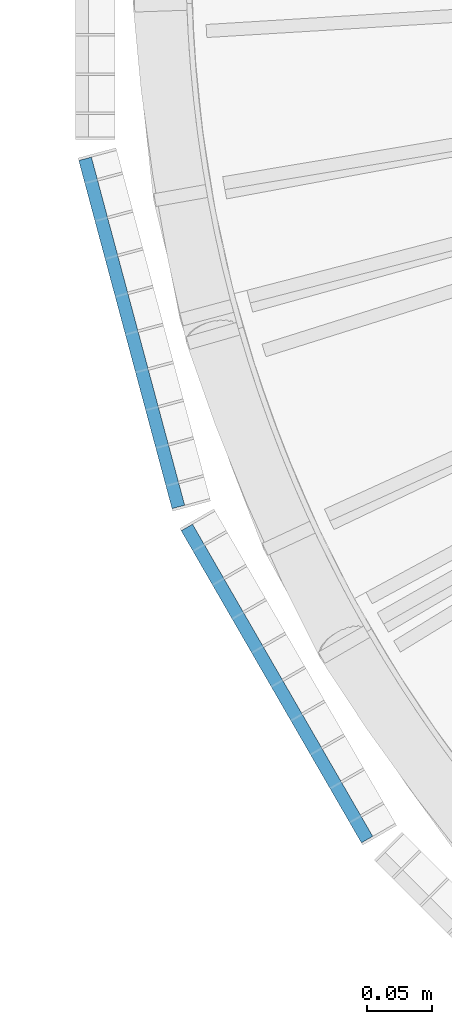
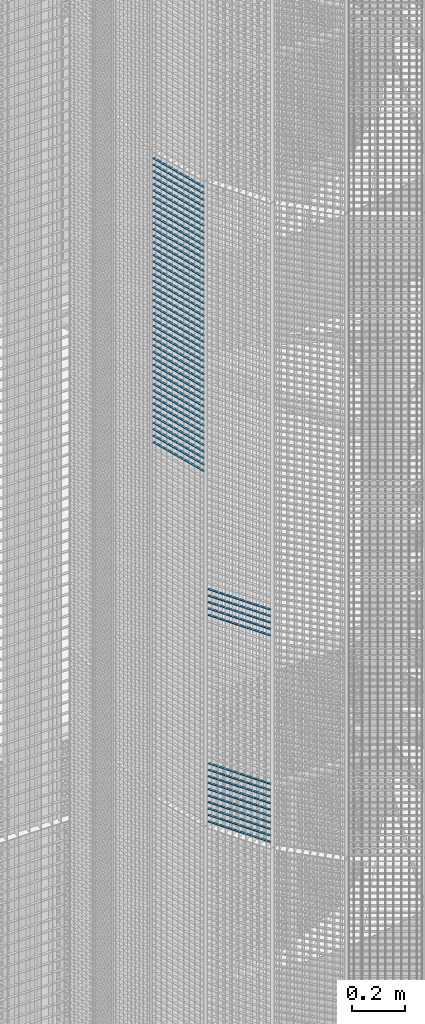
# One storey, part 111 of 1148: 60 beams, 2 elements without a shape of their own.
"""IFC2X3 building model written with IfcOpenShell, lengths in millimetres."""

from ifc_helpers import new_model, si_unit, frame, origin_with_axes, origin_2d_with_axis, place, context, subcontext, project, spatial, rectangle, extrude, material, type_object, element, aggregate, save


model = new_model("IFC2X3")

# Units and contexts
model_context = context("Model", 3, precision=1e-05, world=origin_with_axes())
body_context = subcontext(model_context, "Body", "Model", "MODEL_VIEW")
ifc_project = project(units=[si_unit("LENGTHUNIT", "METRE", prefix="MILLI"), si_unit("AREAUNIT", "SQUARE_METRE"), si_unit("VOLUMEUNIT", "CUBIC_METRE"), si_unit("MASSUNIT", "GRAM", prefix="KILO"), si_unit("TIMEUNIT", "SECOND"), si_unit("PLANEANGLEUNIT", "RADIAN"), si_unit("SOLIDANGLEUNIT", "STERADIAN"), si_unit("THERMODYNAMICTEMPERATUREUNIT", "DEGREE_CELSIUS"), si_unit("LUMINOUSINTENSITYUNIT", "LUMEN")], contexts=[model_context])

# Site, building, storey
site_placement = place(None, origin_with_axes())
site = spatial("IfcSite", under=ifc_project, at=site_placement, Name="Undefined", CompositionType="ELEMENT")
building_placement = place(site_placement, origin_with_axes())
building = spatial("IfcBuilding", under=site, at=building_placement, Name="Undefined", CompositionType="ELEMENT")
storey_placement = place(building_placement, origin_with_axes())
storey = spatial("IfcBuildingStorey", under=building, at=storey_placement, Name="Undefined", CompositionType="ELEMENT", Elevation=0.0)

# Assembly, beams
assembly_1_placement = place(storey_placement, origin_with_axes())
assembly_1 = element("IfcElementAssembly", 1, at=assembly_1_placement, inside=storey, Name="BORDURE", AssemblyPlace="NOTDEFINED", PredefinedType="NOTDEFINED")
ifc_material = material(Name="STEEL/S235JR")
beam_type = type_object("IfcBeamType", Name="PL2*10", PredefinedType="NOTDEFINED")
beam_1_placement = place(assembly_1_placement, frame((-1033.29996828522, -437.231955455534, 12300.0), z_axis=(-0.866025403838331, -0.499999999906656, 0.0), x_axis=(0.499999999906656, -0.866025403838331, 0.0)))
beam_1 = element("IfcBeam", 2, at=beam_1_placement, type_object=beam_type, material=ifc_material, Name="ENTRETOISE", context=body_context, shape_type="SweptSolid", body=[
    extrude(rectangle(XDim=2.0, YDim=10.0, at=origin_2d_with_axis()), frame((275.999999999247, 9.09494701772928e-13, 1.53210777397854e-14), z_axis=(-1.0, 0.0, 0.0), x_axis=(0.0, -1.0, 0.0)), (0.0, 0.0, 1.0), 276.0),
])
beam_2_placement = place(assembly_1_placement, frame((-1033.29996828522, -437.231955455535, 12270.0), z_axis=(-0.866025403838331, -0.499999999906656, 0.0), x_axis=(0.499999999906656, -0.866025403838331, 0.0)))
beam_2 = element("IfcBeam", 3, at=beam_2_placement, type_object=beam_type, material=ifc_material, Name="ENTRETOISE", context=body_context, shape_type="SweptSolid", body=[
    extrude(rectangle(XDim=2.0, YDim=10.0, at=origin_2d_with_axis()), frame((275.999999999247, 9.09494701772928e-13, 1.53210777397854e-14), z_axis=(-1.0, 0.0, 0.0), x_axis=(0.0, -1.0, 0.0)), (0.0, 0.0, 1.0), 276.0),
])
beam_3_placement = place(assembly_1_placement, frame((-1033.29996828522, -437.231955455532, 12990.0), z_axis=(-0.866025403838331, -0.499999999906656, 0.0), x_axis=(0.499999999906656, -0.866025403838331, 0.0)))
beam_3 = element("IfcBeam", 4, at=beam_3_placement, type_object=beam_type, material=ifc_material, Name="ENTRETOISE", context=body_context, shape_type="SweptSolid", body=[
    extrude(rectangle(XDim=2.0, YDim=10.0, at=origin_2d_with_axis()), frame((275.999999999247, 9.09494701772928e-13, 1.53210777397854e-14), z_axis=(-1.0, 0.0, 0.0), x_axis=(0.0, -1.0, 0.0)), (0.0, 0.0, 1.0), 276.0),
])
beam_4_placement = place(assembly_1_placement, frame((-1033.29996828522, -437.231955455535, 12240.0), z_axis=(-0.866025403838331, -0.499999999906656, 0.0), x_axis=(0.499999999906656, -0.866025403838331, 0.0)))
beam_4 = element("IfcBeam", 5, at=beam_4_placement, type_object=beam_type, material=ifc_material, Name="ENTRETOISE", context=body_context, shape_type="SweptSolid", body=[
    extrude(rectangle(XDim=2.0, YDim=10.0, at=origin_2d_with_axis()), frame((275.999999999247, 9.09494701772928e-13, 1.53210777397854e-14), z_axis=(-1.0, 0.0, 0.0), x_axis=(0.0, -1.0, 0.0)), (0.0, 0.0, 1.0), 276.0),
])
beam_5_placement = place(assembly_1_placement, frame((-1033.29996828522, -437.231955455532, 13020.0), z_axis=(-0.866025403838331, -0.499999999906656, 0.0), x_axis=(0.499999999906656, -0.866025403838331, 0.0)))
beam_5 = element("IfcBeam", 6, at=beam_5_placement, type_object=beam_type, material=ifc_material, Name="ENTRETOISE", context=body_context, shape_type="SweptSolid", body=[
    extrude(rectangle(XDim=2.0, YDim=10.0, at=origin_2d_with_axis()), frame((275.999999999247, 9.09494701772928e-13, 1.53210777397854e-14), z_axis=(-1.0, 0.0, 0.0), x_axis=(0.0, -1.0, 0.0)), (0.0, 0.0, 1.0), 276.0),
])
beam_6_placement = place(assembly_1_placement, frame((-1033.29996828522, -437.231955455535, 12210.0), z_axis=(-0.866025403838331, -0.499999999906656, 0.0), x_axis=(0.499999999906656, -0.866025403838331, 0.0)))
beam_6 = element("IfcBeam", 7, at=beam_6_placement, type_object=beam_type, material=ifc_material, Name="ENTRETOISE", context=body_context, shape_type="SweptSolid", body=[
    extrude(rectangle(XDim=2.0, YDim=10.0, at=origin_2d_with_axis()), frame((275.999999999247, 9.09494701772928e-13, 1.53210777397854e-14), z_axis=(-1.0, 0.0, 0.0), x_axis=(0.0, -1.0, 0.0)), (0.0, 0.0, 1.0), 276.0),
])
beam_7_placement = place(assembly_1_placement, frame((-1033.29996828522, -437.231955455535, 12180.0), z_axis=(-0.866025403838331, -0.499999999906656, 0.0), x_axis=(0.499999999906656, -0.866025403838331, 0.0)))
beam_7 = element("IfcBeam", 8, at=beam_7_placement, type_object=beam_type, material=ifc_material, Name="ENTRETOISE", context=body_context, shape_type="SweptSolid", body=[
    extrude(rectangle(XDim=2.0, YDim=10.0, at=origin_2d_with_axis()), frame((275.999999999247, 9.09494701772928e-13, 1.53210777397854e-14), z_axis=(-1.0, 0.0, 0.0), x_axis=(0.0, -1.0, 0.0)), (0.0, 0.0, 1.0), 276.0),
])
beam_8_placement = place(assembly_1_placement, frame((-1033.29996828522, -437.231955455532, 13050.0), z_axis=(-0.866025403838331, -0.499999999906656, 0.0), x_axis=(0.499999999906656, -0.866025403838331, 0.0)))
beam_8 = element("IfcBeam", 9, at=beam_8_placement, type_object=beam_type, material=ifc_material, Name="ENTRETOISE", context=body_context, shape_type="SweptSolid", body=[
    extrude(rectangle(XDim=2.0, YDim=10.0, at=origin_2d_with_axis()), frame((275.999999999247, 9.09494701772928e-13, 1.53210777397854e-14), z_axis=(-1.0, 0.0, 0.0), x_axis=(0.0, -1.0, 0.0)), (0.0, 0.0, 1.0), 276.0),
])
beam_9_placement = place(assembly_1_placement, frame((-1033.29996828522, -437.231955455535, 12150.0), z_axis=(-0.866025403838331, -0.499999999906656, 0.0), x_axis=(0.499999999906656, -0.866025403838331, 0.0)))
beam_9 = element("IfcBeam", 10, at=beam_9_placement, type_object=beam_type, material=ifc_material, Name="ENTRETOISE", context=body_context, shape_type="SweptSolid", body=[
    extrude(rectangle(XDim=2.0, YDim=10.0, at=origin_2d_with_axis()), frame((275.999999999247, 9.09494701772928e-13, 1.53210777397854e-14), z_axis=(-1.0, 0.0, 0.0), x_axis=(0.0, -1.0, 0.0)), (0.0, 0.0, 1.0), 276.0),
])
beam_10_placement = place(assembly_1_placement, frame((-1033.29996828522, -437.231955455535, 12120.0), z_axis=(-0.866025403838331, -0.499999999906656, 0.0), x_axis=(0.499999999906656, -0.866025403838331, 0.0)))
beam_10 = element("IfcBeam", 11, at=beam_10_placement, type_object=beam_type, material=ifc_material, Name="ENTRETOISE", context=body_context, shape_type="SweptSolid", body=[
    extrude(rectangle(XDim=2.0, YDim=10.0, at=origin_2d_with_axis()), frame((275.999999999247, 9.09494701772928e-13, 1.53210777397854e-14), z_axis=(-1.0, 0.0, 0.0), x_axis=(0.0, -1.0, 0.0)), (0.0, 0.0, 1.0), 276.0),
])
beam_11_placement = place(assembly_1_placement, frame((-1033.29996828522, -437.231955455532, 13080.0), z_axis=(-0.866025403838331, -0.499999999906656, 0.0), x_axis=(0.499999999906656, -0.866025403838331, 0.0)))
beam_11 = element("IfcBeam", 12, at=beam_11_placement, type_object=beam_type, material=ifc_material, Name="ENTRETOISE", context=body_context, shape_type="SweptSolid", body=[
    extrude(rectangle(XDim=2.0, YDim=10.0, at=origin_2d_with_axis()), frame((275.999999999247, 9.09494701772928e-13, 1.53210777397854e-14), z_axis=(-1.0, 0.0, 0.0), x_axis=(0.0, -1.0, 0.0)), (0.0, 0.0, 1.0), 276.0),
])
beam_12_placement = place(assembly_1_placement, frame((-1033.29996828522, -437.231955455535, 12090.0), z_axis=(-0.866025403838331, -0.499999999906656, 0.0), x_axis=(0.499999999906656, -0.866025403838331, 0.0)))
beam_12 = element("IfcBeam", 13, at=beam_12_placement, type_object=beam_type, material=ifc_material, Name="ENTRETOISE", context=body_context, shape_type="SweptSolid", body=[
    extrude(rectangle(XDim=2.0, YDim=10.0, at=origin_2d_with_axis()), frame((275.999999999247, 9.09494701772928e-13, 1.53210777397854e-14), z_axis=(-1.0, 0.0, 0.0), x_axis=(0.0, -1.0, 0.0)), (0.0, 0.0, 1.0), 276.0),
])
beam_13_placement = place(assembly_1_placement, frame((-1033.29996828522, -437.231955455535, 12060.0), z_axis=(-0.866025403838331, -0.499999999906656, 0.0), x_axis=(0.499999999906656, -0.866025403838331, 0.0)))
beam_13 = element("IfcBeam", 14, at=beam_13_placement, type_object=beam_type, material=ifc_material, Name="ENTRETOISE", context=body_context, shape_type="SweptSolid", body=[
    extrude(rectangle(XDim=2.0, YDim=10.0, at=origin_2d_with_axis()), frame((275.999999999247, 9.09494701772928e-13, 1.53210777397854e-14), z_axis=(-1.0, 0.0, 0.0), x_axis=(0.0, -1.0, 0.0)), (0.0, 0.0, 1.0), 276.0),
])
beam_14_placement = place(assembly_1_placement, frame((-1033.29996828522, -437.231955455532, 13110.0), z_axis=(-0.866025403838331, -0.499999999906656, 0.0), x_axis=(0.499999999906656, -0.866025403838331, 0.0)))
beam_14 = element("IfcBeam", 15, at=beam_14_placement, type_object=beam_type, material=ifc_material, Name="ENTRETOISE", context=body_context, shape_type="SweptSolid", body=[
    extrude(rectangle(XDim=2.0, YDim=10.0, at=origin_2d_with_axis()), frame((275.999999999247, 9.09494701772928e-13, 1.53210777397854e-14), z_axis=(-1.0, 0.0, 0.0), x_axis=(0.0, -1.0, 0.0)), (0.0, 0.0, 1.0), 276.0),
])
beam_15_placement = place(assembly_1_placement, frame((-1033.29996828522, -437.231955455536, 12030.0), z_axis=(-0.866025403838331, -0.499999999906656, 0.0), x_axis=(0.499999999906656, -0.866025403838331, 0.0)))
beam_15 = element("IfcBeam", 16, at=beam_15_placement, type_object=beam_type, material=ifc_material, Name="ENTRETOISE", context=body_context, shape_type="SweptSolid", body=[
    extrude(rectangle(XDim=2.0, YDim=10.0, at=origin_2d_with_axis()), frame((275.999999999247, 9.09494701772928e-13, 1.53210777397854e-14), z_axis=(-1.0, 0.0, 0.0), x_axis=(0.0, -1.0, 0.0)), (0.0, 0.0, 1.0), 276.0),
])
aggregate(assembly_1, [beam_1, beam_2, beam_3, beam_4, beam_5, beam_6, beam_7, beam_8, beam_9, beam_10, beam_11, beam_12, beam_13, beam_14, beam_15])

assembly_2_placement = place(storey_placement, origin_with_axes())
assembly_2 = element("IfcElementAssembly", 17, at=assembly_2_placement, inside=storey, Name="BORDURE", AssemblyPlace="NOTDEFINED", PredefinedType="NOTDEFINED")
beam_16_placement = place(assembly_2_placement, frame((-1111.25508286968, -154.895926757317, 14970.0), z_axis=(-0.965925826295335, -0.258819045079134, 0.0), x_axis=(0.258819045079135, -0.965925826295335, 0.0)))
beam_16 = element("IfcBeam", 18, at=beam_16_placement, type_object=beam_type, material=ifc_material, Name="ENTRETOISE", context=body_context, shape_type="SweptSolid", body=[
    extrude(rectangle(XDim=2.0, YDim=10.0, at=origin_2d_with_axis()), frame((275.999999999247, 9.09494701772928e-13, 1.53210777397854e-14), z_axis=(-1.0, 0.0, 0.0), x_axis=(0.0, -1.0, 0.0)), (0.0, 0.0, 1.0), 276.0),
])
beam_17_placement = place(assembly_2_placement, frame((-1111.25508286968, -154.895926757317, 14940.0), z_axis=(-0.965925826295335, -0.258819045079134, 0.0), x_axis=(0.258819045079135, -0.965925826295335, 0.0)))
beam_17 = element("IfcBeam", 19, at=beam_17_placement, type_object=beam_type, material=ifc_material, Name="ENTRETOISE", context=body_context, shape_type="SweptSolid", body=[
    extrude(rectangle(XDim=2.0, YDim=10.0, at=origin_2d_with_axis()), frame((275.999999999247, 9.09494701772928e-13, 1.53210777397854e-14), z_axis=(-1.0, 0.0, 0.0), x_axis=(0.0, -1.0, 0.0)), (0.0, 0.0, 1.0), 276.0),
])
beam_18_placement = place(assembly_2_placement, frame((-1111.25508286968, -154.895926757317, 14910.0), z_axis=(-0.965925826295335, -0.258819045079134, 0.0), x_axis=(0.258819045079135, -0.965925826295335, 0.0)))
beam_18 = element("IfcBeam", 20, at=beam_18_placement, type_object=beam_type, material=ifc_material, Name="ENTRETOISE", context=body_context, shape_type="SweptSolid", body=[
    extrude(rectangle(XDim=2.0, YDim=10.0, at=origin_2d_with_axis()), frame((275.999999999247, 9.09494701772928e-13, 1.53210777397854e-14), z_axis=(-1.0, 0.0, 0.0), x_axis=(0.0, -1.0, 0.0)), (0.0, 0.0, 1.0), 276.0),
])
beam_19_placement = place(assembly_2_placement, frame((-1111.25508286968, -154.895926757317, 14880.0), z_axis=(-0.965925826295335, -0.258819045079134, 0.0), x_axis=(0.258819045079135, -0.965925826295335, 0.0)))
beam_19 = element("IfcBeam", 21, at=beam_19_placement, type_object=beam_type, material=ifc_material, Name="ENTRETOISE", context=body_context, shape_type="SweptSolid", body=[
    extrude(rectangle(XDim=2.0, YDim=10.0, at=origin_2d_with_axis()), frame((275.999999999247, 9.09494701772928e-13, 1.53210777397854e-14), z_axis=(-1.0, 0.0, 0.0), x_axis=(0.0, -1.0, 0.0)), (0.0, 0.0, 1.0), 276.0),
])
beam_20_placement = place(assembly_2_placement, frame((-1111.25508286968, -154.895926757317, 14850.0), z_axis=(-0.965925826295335, -0.258819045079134, 0.0), x_axis=(0.258819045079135, -0.965925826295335, 0.0)))
beam_20 = element("IfcBeam", 22, at=beam_20_placement, type_object=beam_type, material=ifc_material, Name="ENTRETOISE", context=body_context, shape_type="SweptSolid", body=[
    extrude(rectangle(XDim=2.0, YDim=10.0, at=origin_2d_with_axis()), frame((275.999999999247, 9.09494701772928e-13, 1.53210777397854e-14), z_axis=(-1.0, 0.0, 0.0), x_axis=(0.0, -1.0, 0.0)), (0.0, 0.0, 1.0), 276.0),
])
beam_21_placement = place(assembly_2_placement, frame((-1111.25508286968, -154.895926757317, 14820.0), z_axis=(-0.965925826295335, -0.258819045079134, 0.0), x_axis=(0.258819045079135, -0.965925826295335, 0.0)))
beam_21 = element("IfcBeam", 23, at=beam_21_placement, type_object=beam_type, material=ifc_material, Name="ENTRETOISE", context=body_context, shape_type="SweptSolid", body=[
    extrude(rectangle(XDim=2.0, YDim=10.0, at=origin_2d_with_axis()), frame((275.999999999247, 9.09494701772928e-13, 1.53210777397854e-14), z_axis=(-1.0, 0.0, 0.0), x_axis=(0.0, -1.0, 0.0)), (0.0, 0.0, 1.0), 276.0),
])
beam_22_placement = place(assembly_2_placement, frame((-1111.25508286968, -154.895926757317, 14790.0), z_axis=(-0.965925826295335, -0.258819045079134, 0.0), x_axis=(0.258819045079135, -0.965925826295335, 0.0)))
beam_22 = element("IfcBeam", 24, at=beam_22_placement, type_object=beam_type, material=ifc_material, Name="ENTRETOISE", context=body_context, shape_type="SweptSolid", body=[
    extrude(rectangle(XDim=2.0, YDim=10.0, at=origin_2d_with_axis()), frame((275.999999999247, 9.09494701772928e-13, 1.53210777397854e-14), z_axis=(-1.0, 0.0, 0.0), x_axis=(0.0, -1.0, 0.0)), (0.0, 0.0, 1.0), 276.0),
])
beam_23_placement = place(assembly_2_placement, frame((-1111.25508286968, -154.895926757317, 14760.0), z_axis=(-0.965925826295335, -0.258819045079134, 0.0), x_axis=(0.258819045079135, -0.965925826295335, 0.0)))
beam_23 = element("IfcBeam", 25, at=beam_23_placement, type_object=beam_type, material=ifc_material, Name="ENTRETOISE", context=body_context, shape_type="SweptSolid", body=[
    extrude(rectangle(XDim=2.0, YDim=10.0, at=origin_2d_with_axis()), frame((275.999999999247, 9.09494701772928e-13, 1.53210777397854e-14), z_axis=(-1.0, 0.0, 0.0), x_axis=(0.0, -1.0, 0.0)), (0.0, 0.0, 1.0), 276.0),
])
beam_24_placement = place(assembly_2_placement, frame((-1111.25508286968, -154.895926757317, 14730.0), z_axis=(-0.965925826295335, -0.258819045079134, 0.0), x_axis=(0.258819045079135, -0.965925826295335, 0.0)))
beam_24 = element("IfcBeam", 26, at=beam_24_placement, type_object=beam_type, material=ifc_material, Name="ENTRETOISE", context=body_context, shape_type="SweptSolid", body=[
    extrude(rectangle(XDim=2.0, YDim=10.0, at=origin_2d_with_axis()), frame((275.999999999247, 9.09494701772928e-13, 1.53210777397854e-14), z_axis=(-1.0, 0.0, 0.0), x_axis=(0.0, -1.0, 0.0)), (0.0, 0.0, 1.0), 276.0),
])
beam_25_placement = place(assembly_2_placement, frame((-1111.25508286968, -154.895926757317, 14700.0), z_axis=(-0.965925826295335, -0.258819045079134, 0.0), x_axis=(0.258819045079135, -0.965925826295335, 0.0)))
beam_25 = element("IfcBeam", 27, at=beam_25_placement, type_object=beam_type, material=ifc_material, Name="ENTRETOISE", context=body_context, shape_type="SweptSolid", body=[
    extrude(rectangle(XDim=2.0, YDim=10.0, at=origin_2d_with_axis()), frame((275.999999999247, 9.09494701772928e-13, 1.53210777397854e-14), z_axis=(-1.0, 0.0, 0.0), x_axis=(0.0, -1.0, 0.0)), (0.0, 0.0, 1.0), 276.0),
])
beam_26_placement = place(assembly_2_placement, frame((-1111.25508286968, -154.895926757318, 14670.0), z_axis=(-0.965925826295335, -0.258819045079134, 0.0), x_axis=(0.258819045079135, -0.965925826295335, 0.0)))
beam_26 = element("IfcBeam", 28, at=beam_26_placement, type_object=beam_type, material=ifc_material, Name="ENTRETOISE", context=body_context, shape_type="SweptSolid", body=[
    extrude(rectangle(XDim=2.0, YDim=10.0, at=origin_2d_with_axis()), frame((275.999999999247, 9.09494701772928e-13, 1.53210777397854e-14), z_axis=(-1.0, 0.0, 0.0), x_axis=(0.0, -1.0, 0.0)), (0.0, 0.0, 1.0), 276.0),
])
beam_27_placement = place(assembly_2_placement, frame((-1111.25508286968, -154.895926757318, 14640.0), z_axis=(-0.965925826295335, -0.258819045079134, 0.0), x_axis=(0.258819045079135, -0.965925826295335, 0.0)))
beam_27 = element("IfcBeam", 29, at=beam_27_placement, type_object=beam_type, material=ifc_material, Name="ENTRETOISE", context=body_context, shape_type="SweptSolid", body=[
    extrude(rectangle(XDim=2.0, YDim=10.0, at=origin_2d_with_axis()), frame((275.999999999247, 9.09494701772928e-13, 1.53210777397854e-14), z_axis=(-1.0, 0.0, 0.0), x_axis=(0.0, -1.0, 0.0)), (0.0, 0.0, 1.0), 276.0),
])
beam_28_placement = place(assembly_2_placement, frame((-1111.25508286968, -154.895926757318, 14610.0), z_axis=(-0.965925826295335, -0.258819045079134, 0.0), x_axis=(0.258819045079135, -0.965925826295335, 0.0)))
beam_28 = element("IfcBeam", 30, at=beam_28_placement, type_object=beam_type, material=ifc_material, Name="ENTRETOISE", context=body_context, shape_type="SweptSolid", body=[
    extrude(rectangle(XDim=2.0, YDim=10.0, at=origin_2d_with_axis()), frame((275.999999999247, 9.09494701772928e-13, 1.53210777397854e-14), z_axis=(-1.0, 0.0, 0.0), x_axis=(0.0, -1.0, 0.0)), (0.0, 0.0, 1.0), 276.0),
])
beam_29_placement = place(assembly_2_placement, frame((-1111.25508286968, -154.895926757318, 14580.0), z_axis=(-0.965925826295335, -0.258819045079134, 0.0), x_axis=(0.258819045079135, -0.965925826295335, 0.0)))
beam_29 = element("IfcBeam", 31, at=beam_29_placement, type_object=beam_type, material=ifc_material, Name="ENTRETOISE", context=body_context, shape_type="SweptSolid", body=[
    extrude(rectangle(XDim=2.0, YDim=10.0, at=origin_2d_with_axis()), frame((275.999999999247, 9.09494701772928e-13, 1.53210777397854e-14), z_axis=(-1.0, 0.0, 0.0), x_axis=(0.0, -1.0, 0.0)), (0.0, 0.0, 1.0), 276.0),
])
beam_30_placement = place(assembly_2_placement, frame((-1111.25508286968, -154.895926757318, 14550.0), z_axis=(-0.965925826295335, -0.258819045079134, 0.0), x_axis=(0.258819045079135, -0.965925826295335, 0.0)))
beam_30 = element("IfcBeam", 32, at=beam_30_placement, type_object=beam_type, material=ifc_material, Name="ENTRETOISE", context=body_context, shape_type="SweptSolid", body=[
    extrude(rectangle(XDim=2.0, YDim=10.0, at=origin_2d_with_axis()), frame((275.999999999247, 9.09494701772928e-13, 1.53210777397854e-14), z_axis=(-1.0, 0.0, 0.0), x_axis=(0.0, -1.0, 0.0)), (0.0, 0.0, 1.0), 276.0),
])
beam_31_placement = place(assembly_2_placement, frame((-1111.25508286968, -154.895926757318, 14520.0), z_axis=(-0.965925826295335, -0.258819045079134, 0.0), x_axis=(0.258819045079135, -0.965925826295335, 0.0)))
beam_31 = element("IfcBeam", 33, at=beam_31_placement, type_object=beam_type, material=ifc_material, Name="ENTRETOISE", context=body_context, shape_type="SweptSolid", body=[
    extrude(rectangle(XDim=2.0, YDim=10.0, at=origin_2d_with_axis()), frame((275.999999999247, 9.09494701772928e-13, 1.53210777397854e-14), z_axis=(-1.0, 0.0, 0.0), x_axis=(0.0, -1.0, 0.0)), (0.0, 0.0, 1.0), 276.0),
])
beam_32_placement = place(assembly_2_placement, frame((-1111.25508286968, -154.895926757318, 14490.0), z_axis=(-0.965925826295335, -0.258819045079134, 0.0), x_axis=(0.258819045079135, -0.965925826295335, 0.0)))
beam_32 = element("IfcBeam", 34, at=beam_32_placement, type_object=beam_type, material=ifc_material, Name="ENTRETOISE", context=body_context, shape_type="SweptSolid", body=[
    extrude(rectangle(XDim=2.0, YDim=10.0, at=origin_2d_with_axis()), frame((275.999999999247, 9.09494701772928e-13, 1.53210777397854e-14), z_axis=(-1.0, 0.0, 0.0), x_axis=(0.0, -1.0, 0.0)), (0.0, 0.0, 1.0), 276.0),
])
beam_33_placement = place(assembly_2_placement, frame((-1111.25508286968, -154.895926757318, 14460.0), z_axis=(-0.965925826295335, -0.258819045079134, 0.0), x_axis=(0.258819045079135, -0.965925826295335, 0.0)))
beam_33 = element("IfcBeam", 35, at=beam_33_placement, type_object=beam_type, material=ifc_material, Name="ENTRETOISE", context=body_context, shape_type="SweptSolid", body=[
    extrude(rectangle(XDim=2.0, YDim=10.0, at=origin_2d_with_axis()), frame((275.999999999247, 9.09494701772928e-13, 1.53210777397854e-14), z_axis=(-1.0, 0.0, 0.0), x_axis=(0.0, -1.0, 0.0)), (0.0, 0.0, 1.0), 276.0),
])
beam_34_placement = place(assembly_2_placement, frame((-1111.25508286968, -154.895926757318, 14430.0), z_axis=(-0.965925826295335, -0.258819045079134, 0.0), x_axis=(0.258819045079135, -0.965925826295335, 0.0)))
beam_34 = element("IfcBeam", 36, at=beam_34_placement, type_object=beam_type, material=ifc_material, Name="ENTRETOISE", context=body_context, shape_type="SweptSolid", body=[
    extrude(rectangle(XDim=2.0, YDim=10.0, at=origin_2d_with_axis()), frame((275.999999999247, 9.09494701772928e-13, 1.53210777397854e-14), z_axis=(-1.0, 0.0, 0.0), x_axis=(0.0, -1.0, 0.0)), (0.0, 0.0, 1.0), 276.0),
])
beam_35_placement = place(assembly_2_placement, frame((-1111.25508286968, -154.895926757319, 14400.0), z_axis=(-0.965925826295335, -0.258819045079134, 0.0), x_axis=(0.258819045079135, -0.965925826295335, 0.0)))
beam_35 = element("IfcBeam", 37, at=beam_35_placement, type_object=beam_type, material=ifc_material, Name="ENTRETOISE", context=body_context, shape_type="SweptSolid", body=[
    extrude(rectangle(XDim=2.0, YDim=10.0, at=origin_2d_with_axis()), frame((275.999999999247, 9.09494701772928e-13, 1.53210777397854e-14), z_axis=(-1.0, 0.0, 0.0), x_axis=(0.0, -1.0, 0.0)), (0.0, 0.0, 1.0), 276.0),
])
beam_36_placement = place(assembly_2_placement, frame((-1111.25508286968, -154.895926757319, 14370.0), z_axis=(-0.965925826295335, -0.258819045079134, 0.0), x_axis=(0.258819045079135, -0.965925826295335, 0.0)))
beam_36 = element("IfcBeam", 38, at=beam_36_placement, type_object=beam_type, material=ifc_material, Name="ENTRETOISE", context=body_context, shape_type="SweptSolid", body=[
    extrude(rectangle(XDim=2.0, YDim=10.0, at=origin_2d_with_axis()), frame((275.999999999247, 9.09494701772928e-13, 1.53210777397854e-14), z_axis=(-1.0, 0.0, 0.0), x_axis=(0.0, -1.0, 0.0)), (0.0, 0.0, 1.0), 276.0),
])
beam_37_placement = place(assembly_2_placement, frame((-1111.25508286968, -154.895926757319, 14340.0), z_axis=(-0.965925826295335, -0.258819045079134, 0.0), x_axis=(0.258819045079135, -0.965925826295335, 0.0)))
beam_37 = element("IfcBeam", 39, at=beam_37_placement, type_object=beam_type, material=ifc_material, Name="ENTRETOISE", context=body_context, shape_type="SweptSolid", body=[
    extrude(rectangle(XDim=2.0, YDim=10.0, at=origin_2d_with_axis()), frame((275.999999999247, 9.09494701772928e-13, 1.53210777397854e-14), z_axis=(-1.0, 0.0, 0.0), x_axis=(0.0, -1.0, 0.0)), (0.0, 0.0, 1.0), 276.0),
])
beam_38_placement = place(assembly_2_placement, frame((-1111.25508286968, -154.895926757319, 14310.0), z_axis=(-0.965925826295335, -0.258819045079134, 0.0), x_axis=(0.258819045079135, -0.965925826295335, 0.0)))
beam_38 = element("IfcBeam", 40, at=beam_38_placement, type_object=beam_type, material=ifc_material, Name="ENTRETOISE", context=body_context, shape_type="SweptSolid", body=[
    extrude(rectangle(XDim=2.0, YDim=10.0, at=origin_2d_with_axis()), frame((275.999999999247, 9.09494701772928e-13, 1.53210777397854e-14), z_axis=(-1.0, 0.0, 0.0), x_axis=(0.0, -1.0, 0.0)), (0.0, 0.0, 1.0), 276.0),
])
beam_39_placement = place(assembly_2_placement, frame((-1111.25508286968, -154.895926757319, 14280.0), z_axis=(-0.965925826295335, -0.258819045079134, 0.0), x_axis=(0.258819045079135, -0.965925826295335, 0.0)))
beam_39 = element("IfcBeam", 41, at=beam_39_placement, type_object=beam_type, material=ifc_material, Name="ENTRETOISE", context=body_context, shape_type="SweptSolid", body=[
    extrude(rectangle(XDim=2.0, YDim=10.0, at=origin_2d_with_axis()), frame((275.999999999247, 9.09494701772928e-13, 1.53210777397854e-14), z_axis=(-1.0, 0.0, 0.0), x_axis=(0.0, -1.0, 0.0)), (0.0, 0.0, 1.0), 276.0),
])
beam_40_placement = place(assembly_2_placement, frame((-1111.25508286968, -154.895926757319, 14250.0), z_axis=(-0.965925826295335, -0.258819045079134, 0.0), x_axis=(0.258819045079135, -0.965925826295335, 0.0)))
beam_40 = element("IfcBeam", 42, at=beam_40_placement, type_object=beam_type, material=ifc_material, Name="ENTRETOISE", context=body_context, shape_type="SweptSolid", body=[
    extrude(rectangle(XDim=2.0, YDim=10.0, at=origin_2d_with_axis()), frame((275.999999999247, 9.09494701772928e-13, 1.53210777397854e-14), z_axis=(-1.0, 0.0, 0.0), x_axis=(0.0, -1.0, 0.0)), (0.0, 0.0, 1.0), 276.0),
])
beam_41_placement = place(assembly_2_placement, frame((-1111.25508286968, -154.895926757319, 14220.0), z_axis=(-0.965925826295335, -0.258819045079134, 0.0), x_axis=(0.258819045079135, -0.965925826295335, 0.0)))
beam_41 = element("IfcBeam", 43, at=beam_41_placement, type_object=beam_type, material=ifc_material, Name="ENTRETOISE", context=body_context, shape_type="SweptSolid", body=[
    extrude(rectangle(XDim=2.0, YDim=10.0, at=origin_2d_with_axis()), frame((275.999999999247, 9.09494701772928e-13, 1.53210777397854e-14), z_axis=(-1.0, 0.0, 0.0), x_axis=(0.0, -1.0, 0.0)), (0.0, 0.0, 1.0), 276.0),
])
beam_42_placement = place(assembly_2_placement, frame((-1111.25508286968, -154.895926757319, 14190.0), z_axis=(-0.965925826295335, -0.258819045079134, 0.0), x_axis=(0.258819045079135, -0.965925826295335, 0.0)))
beam_42 = element("IfcBeam", 44, at=beam_42_placement, type_object=beam_type, material=ifc_material, Name="ENTRETOISE", context=body_context, shape_type="SweptSolid", body=[
    extrude(rectangle(XDim=2.0, YDim=10.0, at=origin_2d_with_axis()), frame((275.999999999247, 9.09494701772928e-13, 1.53210777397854e-14), z_axis=(-1.0, 0.0, 0.0), x_axis=(0.0, -1.0, 0.0)), (0.0, 0.0, 1.0), 276.0),
])
beam_43_placement = place(assembly_2_placement, frame((-1111.25508286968, -154.895926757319, 14160.0), z_axis=(-0.965925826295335, -0.258819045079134, 0.0), x_axis=(0.258819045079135, -0.965925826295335, 0.0)))
beam_43 = element("IfcBeam", 45, at=beam_43_placement, type_object=beam_type, material=ifc_material, Name="ENTRETOISE", context=body_context, shape_type="SweptSolid", body=[
    extrude(rectangle(XDim=2.0, YDim=10.0, at=origin_2d_with_axis()), frame((275.999999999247, 9.09494701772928e-13, 1.53210777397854e-14), z_axis=(-1.0, 0.0, 0.0), x_axis=(0.0, -1.0, 0.0)), (0.0, 0.0, 1.0), 276.0),
])
beam_44_placement = place(assembly_2_placement, frame((-1111.25508286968, -154.89592675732, 14130.0), z_axis=(-0.965925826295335, -0.258819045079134, 0.0), x_axis=(0.258819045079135, -0.965925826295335, 0.0)))
beam_44 = element("IfcBeam", 46, at=beam_44_placement, type_object=beam_type, material=ifc_material, Name="ENTRETOISE", context=body_context, shape_type="SweptSolid", body=[
    extrude(rectangle(XDim=2.0, YDim=10.0, at=origin_2d_with_axis()), frame((275.999999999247, 9.09494701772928e-13, 1.53210777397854e-14), z_axis=(-1.0, 0.0, 0.0), x_axis=(0.0, -1.0, 0.0)), (0.0, 0.0, 1.0), 276.0),
])
beam_45_placement = place(assembly_2_placement, frame((-1111.25508286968, -154.89592675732, 14100.0), z_axis=(-0.965925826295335, -0.258819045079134, 0.0), x_axis=(0.258819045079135, -0.965925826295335, 0.0)))
beam_45 = element("IfcBeam", 47, at=beam_45_placement, type_object=beam_type, material=ifc_material, Name="ENTRETOISE", context=body_context, shape_type="SweptSolid", body=[
    extrude(rectangle(XDim=2.0, YDim=10.0, at=origin_2d_with_axis()), frame((275.999999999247, 9.09494701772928e-13, 1.53210777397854e-14), z_axis=(-1.0, 0.0, 0.0), x_axis=(0.0, -1.0, 0.0)), (0.0, 0.0, 1.0), 276.0),
])
beam_46_placement = place(assembly_2_placement, frame((-1111.25508286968, -154.89592675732, 14070.0), z_axis=(-0.965925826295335, -0.258819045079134, 0.0), x_axis=(0.258819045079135, -0.965925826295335, 0.0)))
beam_46 = element("IfcBeam", 48, at=beam_46_placement, type_object=beam_type, material=ifc_material, Name="ENTRETOISE", context=body_context, shape_type="SweptSolid", body=[
    extrude(rectangle(XDim=2.0, YDim=10.0, at=origin_2d_with_axis()), frame((275.999999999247, 9.09494701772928e-13, 1.53210777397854e-14), z_axis=(-1.0, 0.0, 0.0), x_axis=(0.0, -1.0, 0.0)), (0.0, 0.0, 1.0), 276.0),
])
beam_47_placement = place(assembly_2_placement, frame((-1111.25508286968, -154.89592675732, 14040.0), z_axis=(-0.965925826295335, -0.258819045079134, 0.0), x_axis=(0.258819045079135, -0.965925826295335, 0.0)))
beam_47 = element("IfcBeam", 49, at=beam_47_placement, type_object=beam_type, material=ifc_material, Name="ENTRETOISE", context=body_context, shape_type="SweptSolid", body=[
    extrude(rectangle(XDim=2.0, YDim=10.0, at=origin_2d_with_axis()), frame((275.999999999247, 9.09494701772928e-13, 1.53210777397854e-14), z_axis=(-1.0, 0.0, 0.0), x_axis=(0.0, -1.0, 0.0)), (0.0, 0.0, 1.0), 276.0),
])
beam_48_placement = place(assembly_2_placement, frame((-1111.25508286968, -154.89592675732, 14010.0), z_axis=(-0.965925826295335, -0.258819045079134, 0.0), x_axis=(0.258819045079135, -0.965925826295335, 0.0)))
beam_48 = element("IfcBeam", 50, at=beam_48_placement, type_object=beam_type, material=ifc_material, Name="ENTRETOISE", context=body_context, shape_type="SweptSolid", body=[
    extrude(rectangle(XDim=2.0, YDim=10.0, at=origin_2d_with_axis()), frame((275.999999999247, 9.09494701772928e-13, 1.53210777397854e-14), z_axis=(-1.0, 0.0, 0.0), x_axis=(0.0, -1.0, 0.0)), (0.0, 0.0, 1.0), 276.0),
])
beam_49_placement = place(assembly_2_placement, frame((-1111.25508286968, -154.89592675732, 13980.0), z_axis=(-0.965925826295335, -0.258819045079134, 0.0), x_axis=(0.258819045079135, -0.965925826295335, 0.0)))
beam_49 = element("IfcBeam", 51, at=beam_49_placement, type_object=beam_type, material=ifc_material, Name="ENTRETOISE", context=body_context, shape_type="SweptSolid", body=[
    extrude(rectangle(XDim=2.0, YDim=10.0, at=origin_2d_with_axis()), frame((275.999999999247, 9.09494701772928e-13, 1.53210777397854e-14), z_axis=(-1.0, 0.0, 0.0), x_axis=(0.0, -1.0, 0.0)), (0.0, 0.0, 1.0), 276.0),
])
beam_50_placement = place(assembly_2_placement, frame((-1111.25508286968, -154.89592675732, 13950.0), z_axis=(-0.965925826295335, -0.258819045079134, 0.0), x_axis=(0.258819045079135, -0.965925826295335, 0.0)))
beam_50 = element("IfcBeam", 52, at=beam_50_placement, type_object=beam_type, material=ifc_material, Name="ENTRETOISE", context=body_context, shape_type="SweptSolid", body=[
    extrude(rectangle(XDim=2.0, YDim=10.0, at=origin_2d_with_axis()), frame((275.999999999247, 9.09494701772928e-13, 1.53210777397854e-14), z_axis=(-1.0, 0.0, 0.0), x_axis=(0.0, -1.0, 0.0)), (0.0, 0.0, 1.0), 276.0),
])
beam_51_placement = place(assembly_2_placement, frame((-1111.25508286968, -154.89592675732, 13920.0), z_axis=(-0.965925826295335, -0.258819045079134, 0.0), x_axis=(0.258819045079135, -0.965925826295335, 0.0)))
beam_51 = element("IfcBeam", 53, at=beam_51_placement, type_object=beam_type, material=ifc_material, Name="ENTRETOISE", context=body_context, shape_type="SweptSolid", body=[
    extrude(rectangle(XDim=2.0, YDim=10.0, at=origin_2d_with_axis()), frame((275.999999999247, 9.09494701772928e-13, 1.53210777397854e-14), z_axis=(-1.0, 0.0, 0.0), x_axis=(0.0, -1.0, 0.0)), (0.0, 0.0, 1.0), 276.0),
])
beam_52_placement = place(assembly_2_placement, frame((-1111.25508286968, -154.89592675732, 13890.0), z_axis=(-0.965925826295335, -0.258819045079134, 0.0), x_axis=(0.258819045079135, -0.965925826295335, 0.0)))
beam_52 = element("IfcBeam", 54, at=beam_52_placement, type_object=beam_type, material=ifc_material, Name="ENTRETOISE", context=body_context, shape_type="SweptSolid", body=[
    extrude(rectangle(XDim=2.0, YDim=10.0, at=origin_2d_with_axis()), frame((275.999999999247, 9.09494701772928e-13, 1.53210777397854e-14), z_axis=(-1.0, 0.0, 0.0), x_axis=(0.0, -1.0, 0.0)), (0.0, 0.0, 1.0), 276.0),
])
beam_53_placement = place(assembly_2_placement, frame((-1111.25508286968, -154.895926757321, 13860.0), z_axis=(-0.965925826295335, -0.258819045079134, 0.0), x_axis=(0.258819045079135, -0.965925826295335, 0.0)))
beam_53 = element("IfcBeam", 55, at=beam_53_placement, type_object=beam_type, material=ifc_material, Name="ENTRETOISE", context=body_context, shape_type="SweptSolid", body=[
    extrude(rectangle(XDim=2.0, YDim=10.0, at=origin_2d_with_axis()), frame((275.999999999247, 9.09494701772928e-13, 1.53210777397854e-14), z_axis=(-1.0, 0.0, 0.0), x_axis=(0.0, -1.0, 0.0)), (0.0, 0.0, 1.0), 276.0),
])
beam_54_placement = place(assembly_2_placement, frame((-1111.25508286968, -154.895926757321, 13830.0), z_axis=(-0.965925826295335, -0.258819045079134, 0.0), x_axis=(0.258819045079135, -0.965925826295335, 0.0)))
beam_54 = element("IfcBeam", 56, at=beam_54_placement, type_object=beam_type, material=ifc_material, Name="ENTRETOISE", context=body_context, shape_type="SweptSolid", body=[
    extrude(rectangle(XDim=2.0, YDim=10.0, at=origin_2d_with_axis()), frame((275.999999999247, 9.09494701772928e-13, 1.53210777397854e-14), z_axis=(-1.0, 0.0, 0.0), x_axis=(0.0, -1.0, 0.0)), (0.0, 0.0, 1.0), 276.0),
])
beam_55_placement = place(assembly_2_placement, frame((-1111.25508286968, -154.895926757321, 13800.0), z_axis=(-0.965925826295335, -0.258819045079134, 0.0), x_axis=(0.258819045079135, -0.965925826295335, 0.0)))
beam_55 = element("IfcBeam", 57, at=beam_55_placement, type_object=beam_type, material=ifc_material, Name="ENTRETOISE", context=body_context, shape_type="SweptSolid", body=[
    extrude(rectangle(XDim=2.0, YDim=10.0, at=origin_2d_with_axis()), frame((275.999999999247, 9.09494701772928e-13, 1.53210777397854e-14), z_axis=(-1.0, 0.0, 0.0), x_axis=(0.0, -1.0, 0.0)), (0.0, 0.0, 1.0), 276.0),
])
beam_56_placement = place(assembly_2_placement, frame((-1111.25508286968, -154.895926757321, 13770.0), z_axis=(-0.965925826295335, -0.258819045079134, 0.0), x_axis=(0.258819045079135, -0.965925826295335, 0.0)))
beam_56 = element("IfcBeam", 58, at=beam_56_placement, type_object=beam_type, material=ifc_material, Name="ENTRETOISE", context=body_context, shape_type="SweptSolid", body=[
    extrude(rectangle(XDim=2.0, YDim=10.0, at=origin_2d_with_axis()), frame((275.999999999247, 9.09494701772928e-13, 1.53210777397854e-14), z_axis=(-1.0, 0.0, 0.0), x_axis=(0.0, -1.0, 0.0)), (0.0, 0.0, 1.0), 276.0),
])
beam_57_placement = place(assembly_2_placement, frame((-1111.25508286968, -154.895926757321, 13740.0), z_axis=(-0.965925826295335, -0.258819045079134, 0.0), x_axis=(0.258819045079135, -0.965925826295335, 0.0)))
beam_57 = element("IfcBeam", 59, at=beam_57_placement, type_object=beam_type, material=ifc_material, Name="ENTRETOISE", context=body_context, shape_type="SweptSolid", body=[
    extrude(rectangle(XDim=2.0, YDim=10.0, at=origin_2d_with_axis()), frame((275.999999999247, 9.09494701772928e-13, 1.53210777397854e-14), z_axis=(-1.0, 0.0, 0.0), x_axis=(0.0, -1.0, 0.0)), (0.0, 0.0, 1.0), 276.0),
])
beam_58_placement = place(assembly_2_placement, frame((-1111.25508286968, -154.895926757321, 13710.0), z_axis=(-0.965925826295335, -0.258819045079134, 0.0), x_axis=(0.258819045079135, -0.965925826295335, 0.0)))
beam_58 = element("IfcBeam", 60, at=beam_58_placement, type_object=beam_type, material=ifc_material, Name="ENTRETOISE", context=body_context, shape_type="SweptSolid", body=[
    extrude(rectangle(XDim=2.0, YDim=10.0, at=origin_2d_with_axis()), frame((275.999999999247, 9.09494701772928e-13, 1.53210777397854e-14), z_axis=(-1.0, 0.0, 0.0), x_axis=(0.0, -1.0, 0.0)), (0.0, 0.0, 1.0), 276.0),
])
beam_59_placement = place(assembly_2_placement, frame((-1111.25508286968, -154.895926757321, 13680.0), z_axis=(-0.965925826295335, -0.258819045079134, 0.0), x_axis=(0.258819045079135, -0.965925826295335, 0.0)))
beam_59 = element("IfcBeam", 61, at=beam_59_placement, type_object=beam_type, material=ifc_material, Name="ENTRETOISE", context=body_context, shape_type="SweptSolid", body=[
    extrude(rectangle(XDim=2.0, YDim=10.0, at=origin_2d_with_axis()), frame((275.999999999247, 9.09494701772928e-13, 1.53210777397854e-14), z_axis=(-1.0, 0.0, 0.0), x_axis=(0.0, -1.0, 0.0)), (0.0, 0.0, 1.0), 276.0),
])
beam_60_placement = place(assembly_2_placement, frame((-1111.25508286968, -154.895926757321, 13650.0), z_axis=(-0.965925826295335, -0.258819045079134, 0.0), x_axis=(0.258819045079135, -0.965925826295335, 0.0)))
beam_60 = element("IfcBeam", 62, at=beam_60_placement, type_object=beam_type, material=ifc_material, Name="ENTRETOISE", context=body_context, shape_type="SweptSolid", body=[
    extrude(rectangle(XDim=2.0, YDim=10.0, at=origin_2d_with_axis()), frame((275.999999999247, 9.09494701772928e-13, 1.53210777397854e-14), z_axis=(-1.0, 0.0, 0.0), x_axis=(0.0, -1.0, 0.0)), (0.0, 0.0, 1.0), 276.0),
])
aggregate(assembly_2, [beam_16, beam_17, beam_18, beam_19, beam_20, beam_21, beam_22, beam_23, beam_24, beam_25, beam_26, beam_27, beam_28, beam_29, beam_30, beam_31, beam_32, beam_33, beam_34, beam_35, beam_36, beam_37, beam_38, beam_39, beam_40, beam_41, beam_42, beam_43, beam_44, beam_45, beam_46, beam_47, beam_48, beam_49, beam_50, beam_51, beam_52, beam_53, beam_54, beam_55, beam_56, beam_57, beam_58, beam_59, beam_60])

save(model, "model.ifc")
